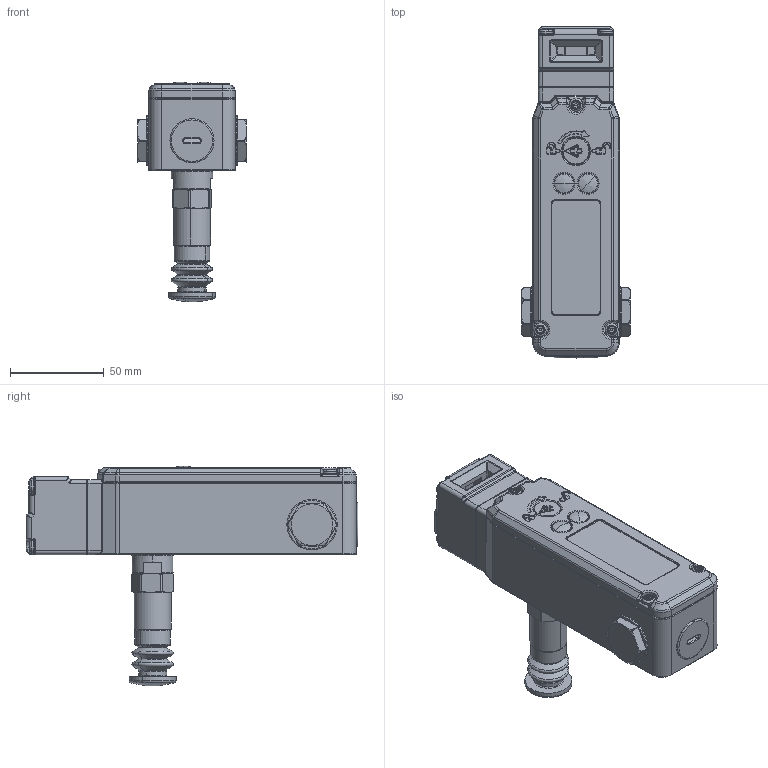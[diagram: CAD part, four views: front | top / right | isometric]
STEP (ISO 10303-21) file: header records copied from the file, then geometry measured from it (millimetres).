
FILE_DESCRIPTION (( 'STEP AP203' ), '1' );
FILE_NAME ('212-KLM-RR (step format).STEP', '2012-09-08T12:14:44', ( '' ), ( '' ), 'SwSTEP 2.0', 'SolidWorks 2010', '' );
FILE_SCHEMA (( 'CONFIG_CONTROL_DESIGN' ));
Length unit declared in the file: millimetre
Products named in the file (1): 212-KLM-RR (step format)
Bounding box: 58 x 177 x 117.3 mm (x, y, z)
Surface area: 52092.5 mm2 (no closed solid volume)
Topology: 0 solids, 39 shells, 1532 faces, 4629 edges, 2943 vertices
Faces by surface type: cylinder 608, plane 398, torus 287, bspline 132, cone 88, sphere 19
Entity records: 56759 total; most frequent: CARTESIAN_POINT 16567, DIRECTION 8850, ORIENTED_EDGE 7564, EDGE_CURVE 4596, AXIS2_PLACEMENT_3D 3413, VERTEX_POINT 2941, LINE 2024, VECTOR 2024
